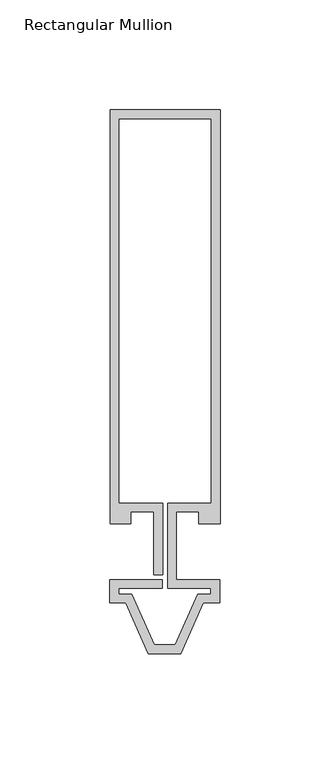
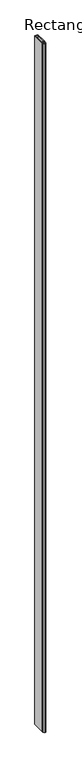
"""IFC4 building model written with IfcOpenShell, lengths in millimetres: member geometry, Rectangular Mullion : Reynaers_CW-50_Transom-Transom_Vertical_188.5mm_Facecap-04."""

from ifc_helpers import new_model, si_unit, frame, origin, place, context, project, spatial, polyline, outline, extrude, source, transform, mapped, element, save


def rectangular_mullion_0eb20de7(model_context):
    return source(origin(), model_context, "Body", "SweptSolid", [
        extrude(outline(polyline([(25.1995941, 12.7331291), (15.499, 12.7331291), (15.499, 18.1331291), (5.2995941, 18.1331291), (5.2995941, -12.7331291), (24.994845, -12.7331291), (24.994845, -23.3331291), (17.6543638, -23.3331291), (7.3695812, -46.4331291), (-7.3695812, -46.4331291), (-17.6543638, -23.3331291), (-24.994845, -23.3331291), (-24.994845, -12.7331291), (-1.0995941, -12.7331291), (-1.0995941, -16.7331291), (-20.994845, -16.7331291), (-20.994845, -19.3331291), (-15.0567334, -19.3331291), (-4.7719508, -42.4331291), (4.7719508, -42.4331291), (15.0567334, -19.3331291), (20.994845, -19.3331291), (20.994845, -16.7331291), (1.2995941, -16.7331291), (1.2995941, 22.1331291), (21.1995941, 22.1331291), (21.1995941, 197.2331291), (-20.8004059, 197.2331291), (-20.8004059, 22.1331291), (-0.9004059, 22.1331291), (-0.9004059, -10.5), (-4.9004059, -10.5), (-4.9004059, 18.1331291), (-15.499, 18.1331291), (-15.499, 12.7331291), (-24.8004059, 12.7331291), (-24.8004059, 201.2331291), (25.1995941, 201.2331291), (25.1995941, 12.7331291)])), frame((0.0, 0.0, -12000.0), z_axis=(0.0, 0.0, 1.0), x_axis=(1.0, 0.0, 0.0)), (0.0, 0.0, 1.0), 12000.0),
    ])


if __name__ == "__main__":
    model = new_model("IFC4")
    model_context = context("Model", 3, world=origin())
    ifc_project = project(units=[si_unit("LENGTHUNIT", "METRE", prefix="MILLI")], contexts=[model_context])
    site = spatial("IfcSite", under=ifc_project)
    building = spatial("IfcBuilding", under=site)
    placement = place(None, origin())
    rectangular_mullion_shape = rectangular_mullion_0eb20de7(model_context)
    element("IfcMember", 1, ObjectType="Rectangular Mullion : Reynaers_CW-50_Transom-Transom_Vertical_188.5mm_Facecap-04", at=placement, inside=building, context=model_context, shape_type="MappedRepresentation", body=[
        mapped(rectangular_mullion_shape, transform((0.0, 0.0, 0.0), x_axis=(1.0, 0.0, 0.0), y_axis=(0.0, 1.0, 0.0), z_axis=(0.0, 0.0, 1.0))),
    ])
    save(model, "model.ifc")
